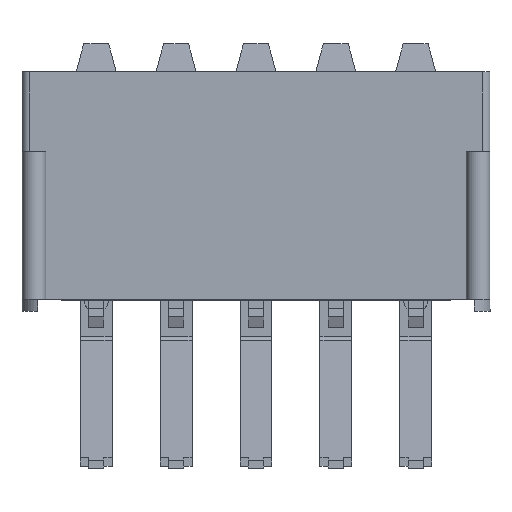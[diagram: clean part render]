
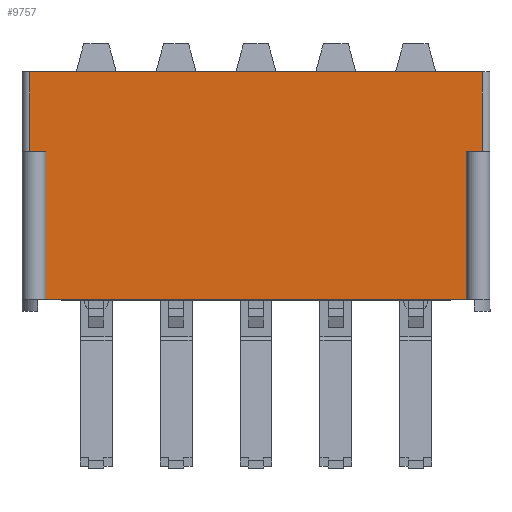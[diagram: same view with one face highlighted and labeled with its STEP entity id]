
A CAD part, front view. The second image highlights one B-rep face of the part: STEP entity #9757.
In plain terms, the highlighted planar face has unit normal (0, -1, 0).
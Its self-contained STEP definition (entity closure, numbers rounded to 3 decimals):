
#795 = ORIENTED_EDGE ( 'NONE', *, *, #2493, .F. ) ;
#1007 = LINE ( 'NONE', #20300, #5148 ) ;
#1082 = LINE ( 'NONE', #6405, #4307 ) ;
#1143 = EDGE_CURVE ( 'NONE', #9172, #19411, #4728, .T. ) ;
#1489 = DIRECTION ( 'NONE',  ( 1., 0., 0. ) ) ;
#1707 = ORIENTED_EDGE ( 'NONE', *, *, #2651, .F. ) ;
#2067 = VERTEX_POINT ( 'NONE', #3034 ) ;
#2377 = PLANE ( 'NONE',  #10419 ) ;
#2493 = EDGE_CURVE ( 'NONE', #4905, #17128, #6170, .T. ) ;
#2651 = EDGE_CURVE ( 'NONE', #17128, #9386, #18063, .T. ) ;
#2883 = LINE ( 'NONE', #3117, #4773 ) ;
#3034 = CARTESIAN_POINT ( 'NONE',  ( 0.762, -9.652, -7.239 ) ) ;
#3117 = CARTESIAN_POINT ( 'NONE',  ( 0.25, -9.652, -7.239 ) ) ;
#3342 = CARTESIAN_POINT ( 'NONE',  ( 0.25, -9.652, -2.54 ) ) ;
#4225 = CARTESIAN_POINT ( 'NONE',  ( 0.25, -9.652, -7.239 ) ) ;
#4307 = VECTOR ( 'NONE', #20262, 1000. ) ;
#4728 = LINE ( 'NONE', #3342, #11383 ) ;
#4773 = VECTOR ( 'NONE', #11746, 1000. ) ;
#4905 = VERTEX_POINT ( 'NONE', #6557 ) ;
#5148 = VECTOR ( 'NONE', #20942, 1000. ) ;
#5300 = CARTESIAN_POINT ( 'NONE',  ( 0.25, -9.652, 0. ) ) ;
#5845 = DIRECTION ( 'NONE',  ( 0., -1., 0. ) ) ;
#6170 = LINE ( 'NONE', #7898, #20934 ) ;
#6405 = CARTESIAN_POINT ( 'NONE',  ( 14.122, -9.652, -2.54 ) ) ;
#6557 = CARTESIAN_POINT ( 'NONE',  ( 0.762, -9.652, -2.54 ) ) ;
#6678 = CARTESIAN_POINT ( 'NONE',  ( 0.762, -9.652, -2.54 ) ) ;
#7307 = CARTESIAN_POINT ( 'NONE',  ( 14.122, -9.652, -2.54 ) ) ;
#7898 = CARTESIAN_POINT ( 'NONE',  ( 0.25, -9.652, -2.54 ) ) ;
#7917 = FACE_OUTER_BOUND ( 'NONE', #20667, .T. ) ;
#8197 = ORIENTED_EDGE ( 'NONE', *, *, #15867, .T. ) ;
#8855 = ORIENTED_EDGE ( 'NONE', *, *, #10704, .T. ) ;
#8888 = VERTEX_POINT ( 'NONE', #21652 ) ;
#9125 = DIRECTION ( 'NONE',  ( 0., 0., 1. ) ) ;
#9172 = VERTEX_POINT ( 'NONE', #7307 ) ;
#9386 = VERTEX_POINT ( 'NONE', #5300 ) ;
#9757 = ADVANCED_FACE ( 'NONE', ( #7917 ), #2377, .T. ) ;
#10419 = AXIS2_PLACEMENT_3D ( 'NONE', #4225, #5845, #11585 ) ;
#10449 = VECTOR ( 'NONE', #22691, 1000. ) ;
#10704 = EDGE_CURVE ( 'NONE', #4905, #2067, #17087, .T. ) ;
#10838 = CARTESIAN_POINT ( 'NONE',  ( 0.25, -9.652, -7.239 ) ) ;
#11383 = VECTOR ( 'NONE', #1489, 1000. ) ;
#11585 = DIRECTION ( 'NONE',  ( 0., 0., -1. ) ) ;
#11746 = DIRECTION ( 'NONE',  ( 1., 0., 0. ) ) ;
#13114 = CARTESIAN_POINT ( 'NONE',  ( 0.25, -9.652, -2.54 ) ) ;
#13175 = DIRECTION ( 'NONE',  ( -1., 0., 0. ) ) ;
#13951 = EDGE_CURVE ( 'NONE', #9386, #8888, #19973, .T. ) ;
#14959 = VECTOR ( 'NONE', #22141, 1000. ) ;
#15158 = CARTESIAN_POINT ( 'NONE',  ( 0.25, -9.652, 0. ) ) ;
#15867 = EDGE_CURVE ( 'NONE', #2067, #21693, #2883, .T. ) ;
#15994 = ORIENTED_EDGE ( 'NONE', *, *, #13951, .F. ) ;
#16050 = ORIENTED_EDGE ( 'NONE', *, *, #1143, .T. ) ;
#16127 = EDGE_CURVE ( 'NONE', #19411, #8888, #1007, .T. ) ;
#16191 = VECTOR ( 'NONE', #9125, 1000. ) ;
#17087 = LINE ( 'NONE', #6678, #10449 ) ;
#17128 = VERTEX_POINT ( 'NONE', #13114 ) ;
#17778 = ORIENTED_EDGE ( 'NONE', *, *, #17832, .F. ) ;
#17832 = EDGE_CURVE ( 'NONE', #9172, #21693, #1082, .T. ) ;
#17956 = ORIENTED_EDGE ( 'NONE', *, *, #16127, .T. ) ;
#18063 = LINE ( 'NONE', #10838, #16191 ) ;
#18348 = CARTESIAN_POINT ( 'NONE',  ( 14.634, -9.652, -2.54 ) ) ;
#19411 = VERTEX_POINT ( 'NONE', #18348 ) ;
#19973 = LINE ( 'NONE', #15158, #14959 ) ;
#20262 = DIRECTION ( 'NONE',  ( 0., 0., -1. ) ) ;
#20300 = CARTESIAN_POINT ( 'NONE',  ( 14.634, -9.652, -7.239 ) ) ;
#20667 = EDGE_LOOP ( 'NONE', ( #8855, #8197, #17778, #16050, #17956, #15994, #1707, #795 ) ) ;
#20805 = CARTESIAN_POINT ( 'NONE',  ( 14.122, -9.652, -7.239 ) ) ;
#20934 = VECTOR ( 'NONE', #13175, 1000. ) ;
#20942 = DIRECTION ( 'NONE',  ( 0., 0., 1. ) ) ;
#21652 = CARTESIAN_POINT ( 'NONE',  ( 14.634, -9.652, 0. ) ) ;
#21693 = VERTEX_POINT ( 'NONE', #20805 ) ;
#22141 = DIRECTION ( 'NONE',  ( 1., 0., 0. ) ) ;
#22691 = DIRECTION ( 'NONE',  ( 0., 0., -1. ) ) ;
